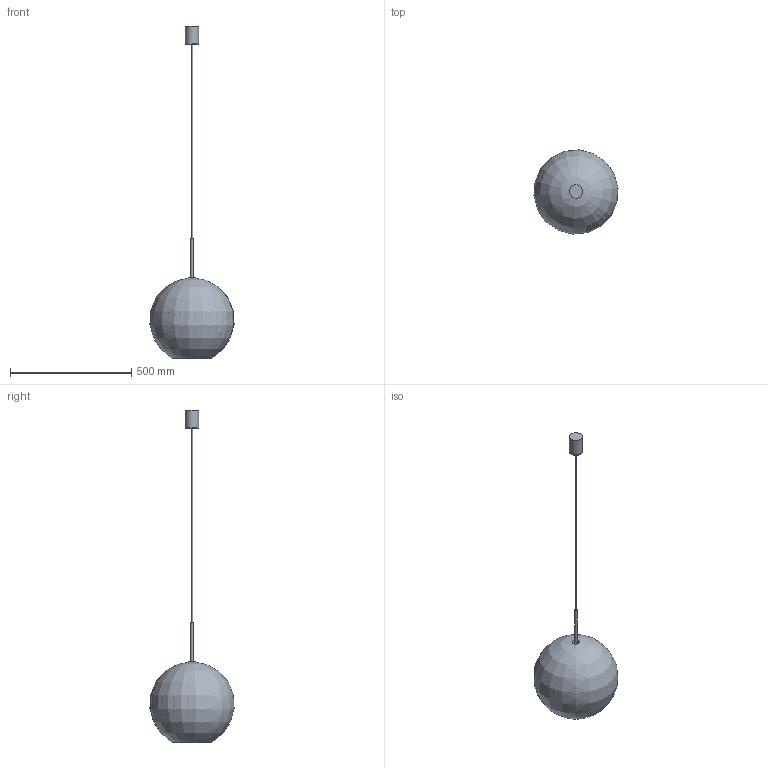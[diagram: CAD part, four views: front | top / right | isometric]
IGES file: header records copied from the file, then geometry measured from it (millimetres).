
Start section: SolidWorks IGES file using analytic representation for surfaces
Global section: file name: X:\PRODUKT\Modele 3D_WWW\_KOLEKCJE WWW\SPHERE\SPHERE-XL-7846\SPHERE-XL-7846.IGS; native system: SolidWorks 2021; preprocessor: SolidWorks 2021; author: gabriela.tworek; date: 220808.131032; units: millimetre
Bounding box: 346.74 x 346.97 x 1368.19 mm (x, y, z)
Surface area: 819021.5 mm2 (no closed solid volume)
Topology: 0 solids, 0 shells, 159 faces, 559 edges, 486 vertices
Faces by surface type: bspline 80, revolution 79
